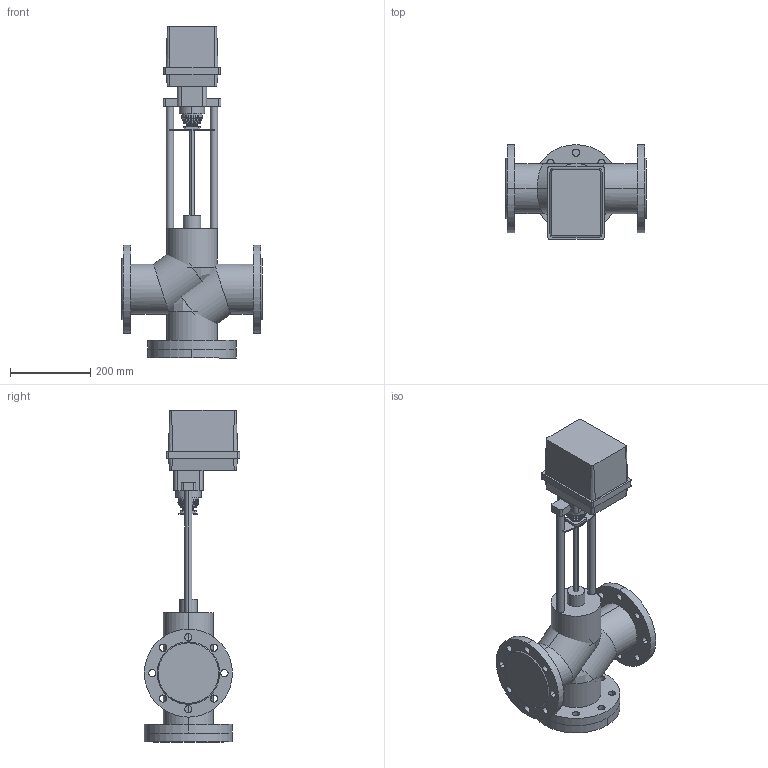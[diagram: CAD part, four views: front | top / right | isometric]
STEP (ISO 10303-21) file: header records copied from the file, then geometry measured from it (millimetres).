
FILE_DESCRIPTION(/* description */ (''),/* implementation_level */ '2;1');
FILE_NAME(/* name */ 'ТРК DN100 PN 1.6 МПа Regada ST0.1',/* time_stamp */ '2026-07-14T23:12:30+03:00',/* author */ (''),/* organization */ (''),/* preprocessor_version */ 'ST-DEVELOPER v20',/* originating_system */ '',/* authorisation */ '');
FILE_SCHEMA (('AP242_MANAGED_MODEL_BASED_3D_ENGINEERING_MIM_LF { 1 0 10303 442 1 1 4 }'));
Length unit declared in the file: millimetre
Products named in the file (14): TopLevelAssembly; Выдавливание; Модификатор; Модификатор_1; Выдавливание_
1; Выдавливание_
2; Вращение; Выдавливание_
3; Выдавливание_
4; Привод_Regada ST 01; Переход; Объемная геометрия 
присоединена; Полый Выдавливание; Объемная геометрия 
присоединена_1
Assembly tree (13 placements, depth 2):
  TopLevelAssembly
    Выдавливание
    Модификатор
    Модификатор_1
    Выдавливание_
1
    Выдавливание_
2
    Вращение
    Выдавливание_
3
    Выдавливание_
4
    Привод_Regada ST 01
    Переход
    Объемная геометрия 
присоединена
    Полый Выдавливание
    Объемная геометрия 
присоединена_1
Bounding box: 350 x 237.99 x 829 mm (x, y, z)
Volume: 14960469.8 mm3; surface area: 1153847.6 mm2
Topology: 23 solids, 23 shells, 244 faces, 550 edges, 346 vertices
Faces by surface type: cylinder 110, plane 88, bspline 42, cone 4
Entity records: 8088 total; most frequent: CARTESIAN_POINT 1939, DIRECTION 1288, ORIENTED_EDGE 1084, EDGE_CURVE 542, AXIS2_PLACEMENT_3D 517, VERTEX_POINT 346, EDGE_LOOP 298, CIRCLE 280
